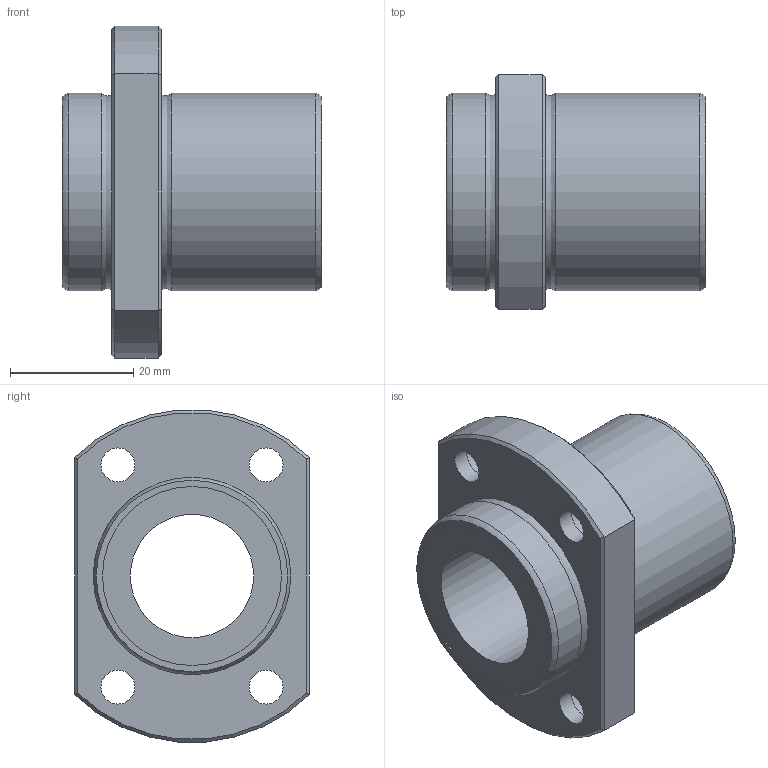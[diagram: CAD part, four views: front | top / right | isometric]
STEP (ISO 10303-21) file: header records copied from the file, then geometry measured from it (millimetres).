
FILE_DESCRIPTION((''),'2;1');
FILE_NAME('D:\製品 (図面)\カタログ用3D\リニアベアリング関連\STEP形式\LFTB\LFTB20.stp','2010-06-04T09:25:11',('Tsuchiya'),(''),'Autodesk Inventor 10','Autodesk Inventor 10','');
FILE_SCHEMA(('AUTOMOTIVE_DESIGN { 1 0 10303 214 1 1 1 1 }'));
Length unit declared in the file: millimetre
Products named in the file (1): LFTB20
Bounding box: 42 x 38 x 53.8 mm (x, y, z)
Volume: 27224.9 mm3; surface area: 10944.5 mm2
Topology: 1 solids, 1 shells, 39 faces, 75 edges, 46 vertices
Faces by surface type: bspline 14, plane 12, cylinder 7, cone 4, torus 2
Full cylindrical faces by diameter (mm): 20 x1, 29 x2, 32 x2
Entity records: 1177 total; most frequent: CARTESIAN_POINT 440, DIRECTION 140, ORIENTED_EDGE 116, EDGE_LOOP 74, AXIS2_PLACEMENT_3D 64, EDGE_CURVE 58, VERTEX_POINT 46, FACE_OUTER_BOUND 39
